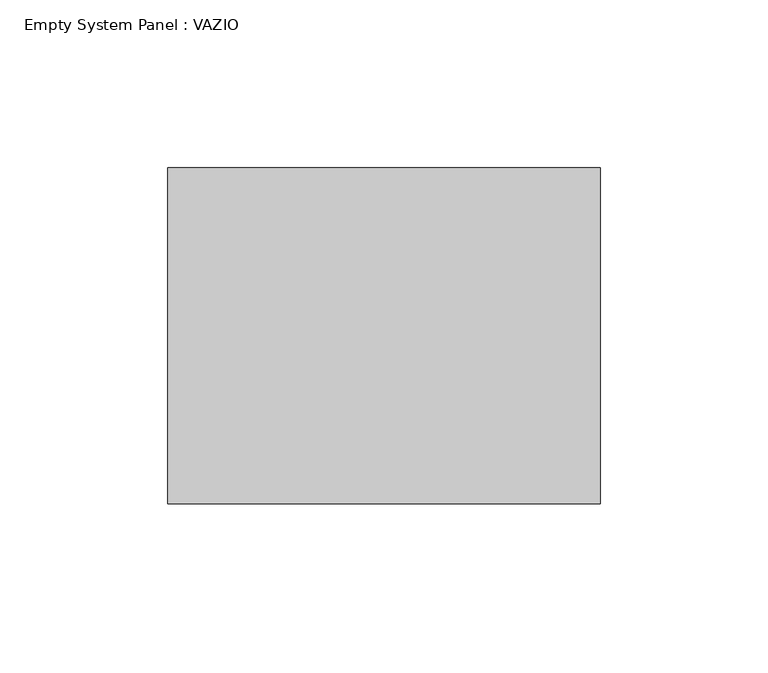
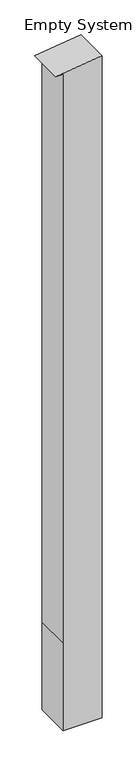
"""IFC4 building model written with IfcOpenShell, lengths in millimetres: plate geometry, Empty System Panel : VAZIO."""

from ifc_helpers import new_model, si_unit, point, frame, frame_2d, origin, place, context, project, spatial, polyline, circle_curve, trimmed, segment, composite_curve, outline, extrude, source, transform, mapped, element, save


def empty_system_panel_vazio_673e1f21(model_context):
    return source(origin(), model_context, "Body", "SweptSolid", [
        extrude(outline(composite_curve([segment(polyline([(0.0, -44.3902439), (0.0, 64.3902439), (256.7936467, 64.3902439), (1935.8513481, 64.3902439)]), True, "CONTINUOUS"), segment(trimmed(circle_curve(frame_2d((3146.6227404, -152.2459401)), 1229.9994311), [point((1935.8513481, 64.3902439))], [point((1919.7649747, -64.3902439))], True, "CARTESIAN"), True, "CONTINUOUS"), segment(polyline([(1919.7649747, -64.3902439), (1919.7649747, -44.3902439), (256.7936467, -44.3902439), (0.0, -44.3902439)]), True, "CONTINUOUS")], self_intersect=False)), frame((0.0, -50.0, 0.0), z_axis=(0.0, 1.0, 0.0), x_axis=(0.0, 0.0, 1.0)), (0.0, 0.0, 1.0), 100.0),
    ])


if __name__ == "__main__":
    model = new_model("IFC4")
    model_context = context("Model", 3, world=origin())
    ifc_project = project(units=[si_unit("LENGTHUNIT", "METRE", prefix="MILLI")], contexts=[model_context])
    site = spatial("IfcSite", under=ifc_project)
    building = spatial("IfcBuilding", under=site)
    placement = place(None, origin())
    empty_system_panel_vazio_shape = empty_system_panel_vazio_673e1f21(model_context)
    element("IfcPlate", 1, ObjectType="Empty System Panel : VAZIO", at=placement, inside=building, context=model_context, shape_type="MappedRepresentation", body=[
        mapped(empty_system_panel_vazio_shape, transform((0.0, 0.0, 0.0), x_axis=(1.0, 0.0, 0.0), y_axis=(0.0, 1.0, 0.0), z_axis=(0.0, 0.0, 1.0))),
    ])
    save(model, "model.ifc")
